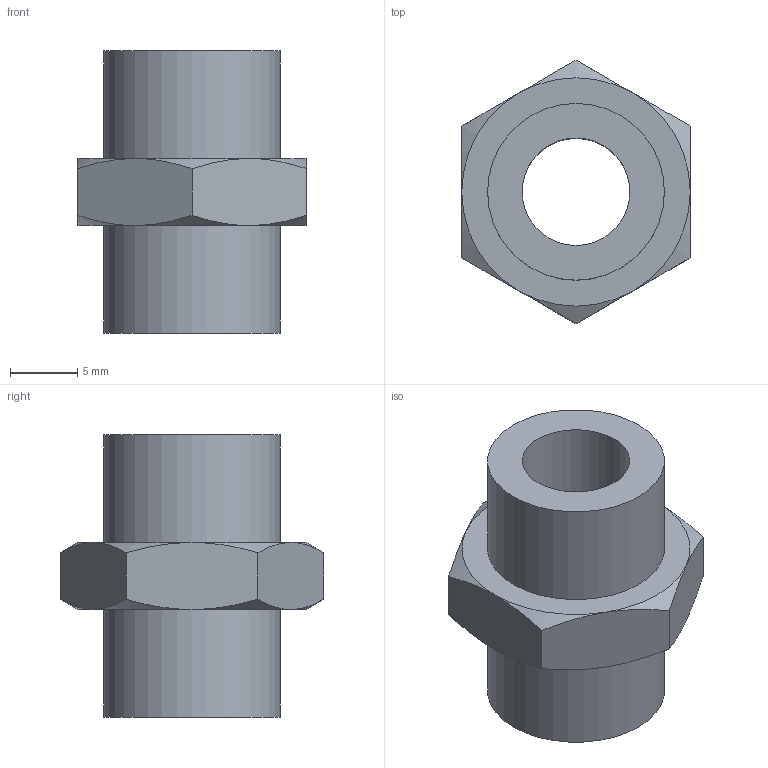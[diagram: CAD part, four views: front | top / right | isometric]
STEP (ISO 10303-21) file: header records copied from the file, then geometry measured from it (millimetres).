
FILE_DESCRIPTION(/* description */ (''),/* implementation_level */ '2;1');
FILE_NAME(/* name */ 'C:\PNX_VAULTFOLDER\Area Tecnica\Disegni\VARIE-3D\Componenti\raccordi\101####\1011414.stp',/* time_stamp */ '2019-09-13T10:22:45+02:00',/* author */ ('maniean1'),/* organization */ ('Pneumax S.p.A.'),/* preprocessor_version */ 'ST-DEVELOPER v17',/* originating_system */ 'Autodesk Inventor 2019',/* authorisation */ '');
FILE_SCHEMA (('AUTOMOTIVE_DESIGN { 1 0 10303 214 3 1 1 }'));
Length unit declared in the file: millimetre
Products named in the file (1): 1011414
Bounding box: 17 x 19.63 x 21 mm (x, y, z)
Volume: 2360.5 mm3; surface area: 1860.1 mm2
Topology: 1 solids, 1 shells, 25 faces, 56 edges, 35 vertices
Faces by surface type: cone 12, plane 10, cylinder 3
Full cylindrical faces by diameter (mm): 8 x1, 13.157 x2
Entity records: 741 total; most frequent: CARTESIAN_POINT 165, ORIENTED_EDGE 112, DIRECTION 107, EDGE_CURVE 56, AXIS2_PLACEMENT_3D 49, VERTEX_POINT 35, EDGE_LOOP 29, STYLED_ITEM 26
